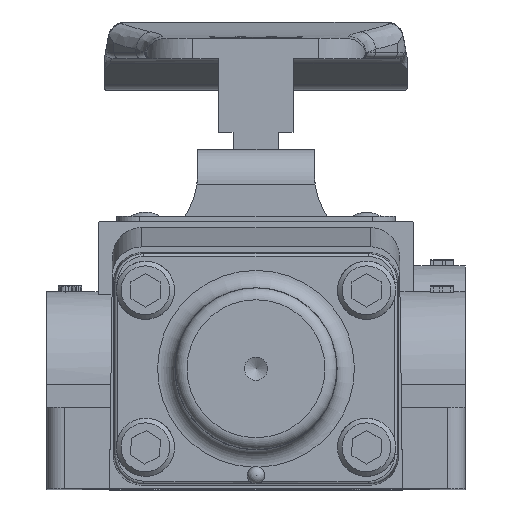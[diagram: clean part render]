
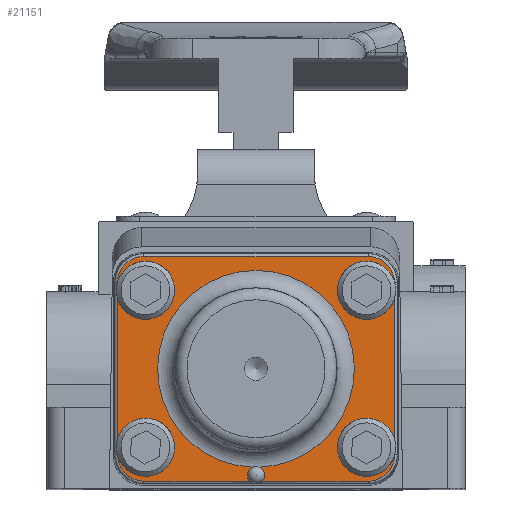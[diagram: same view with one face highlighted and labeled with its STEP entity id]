
A CAD part, top view. The second image highlights one B-rep face of the part: STEP entity #21151.
In plain terms, the highlighted planar face has unit normal (0, 0, 1).
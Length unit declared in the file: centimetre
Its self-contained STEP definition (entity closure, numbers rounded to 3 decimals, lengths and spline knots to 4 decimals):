
#40=ELLIPSE('',#22583,0.3582,0.3581);
#41=ELLIPSE('',#22584,0.3582,0.3581);
#42=ELLIPSE('',#22587,0.3582,0.3581);
#43=ELLIPSE('',#22591,0.3582,0.3581);
#197=LINE('',#31960,#1610);
#198=LINE('',#31966,#1611);
#199=LINE('',#31972,#1612);
#200=LINE('',#31978,#1613);
#201=LINE('',#31986,#1614);
#1610=VECTOR('',#25130,1.9253);
#1611=VECTOR('',#25135,3.0644);
#1612=VECTOR('',#25140,1.9253);
#1613=VECTOR('',#25145,1.4449);
#1614=VECTOR('',#25152,1.4449);
#3786=PLANE('',#22580);
#5805=FACE_OUTER_BOUND('',#7197,.T.);
#7197=EDGE_LOOP('',(#15088,#15089,#15090,#15091,#15092,#15093,#15094,#15095,
#15096,#15097,#15098,#15099,#15100,#15101,#15102,#15103));
#8751=CIRCLE('',#22581,0.3969);
#8752=CIRCLE('',#22582,0.3969);
#8753=CIRCLE('',#22585,0.3969);
#8754=CIRCLE('',#22586,0.3969);
#8755=CIRCLE('',#22588,0.1191);
#8756=CIRCLE('',#22589,1.3434);
#8757=CIRCLE('',#22590,0.1191);
#9737=VERTEX_POINT('',#31956);
#9738=VERTEX_POINT('',#31957);
#9739=VERTEX_POINT('',#31959);
#9740=VERTEX_POINT('',#31961);
#9741=VERTEX_POINT('',#31963);
#9742=VERTEX_POINT('',#31965);
#9743=VERTEX_POINT('',#31967);
#9744=VERTEX_POINT('',#31969);
#9745=VERTEX_POINT('',#31971);
#9746=VERTEX_POINT('',#31973);
#9747=VERTEX_POINT('',#31975);
#9748=VERTEX_POINT('',#31977);
#9749=VERTEX_POINT('',#31979);
#9750=VERTEX_POINT('',#31981);
#9751=VERTEX_POINT('',#31983);
#9752=VERTEX_POINT('',#31985);
#11824=EDGE_CURVE('',#9737,#9738,#8751,.T.);
#11825=EDGE_CURVE('',#9739,#9738,#197,.T.);
#11826=EDGE_CURVE('',#9739,#9740,#8752,.T.);
#11827=EDGE_CURVE('',#9741,#9740,#40,.T.);
#11828=EDGE_CURVE('',#9742,#9741,#198,.T.);
#11829=EDGE_CURVE('',#9743,#9742,#41,.T.);
#11830=EDGE_CURVE('',#9743,#9744,#8753,.T.);
#11831=EDGE_CURVE('',#9745,#9744,#199,.T.);
#11832=EDGE_CURVE('',#9745,#9746,#8754,.T.);
#11833=EDGE_CURVE('',#9747,#9746,#42,.T.);
#11834=EDGE_CURVE('',#9748,#9747,#200,.T.);
#11835=EDGE_CURVE('',#9748,#9749,#8755,.T.);
#11836=EDGE_CURVE('',#9750,#9749,#8756,.T.);
#11837=EDGE_CURVE('',#9750,#9751,#8757,.T.);
#11838=EDGE_CURVE('',#9752,#9751,#201,.T.);
#11839=EDGE_CURVE('',#9737,#9752,#43,.T.);
#15088=ORIENTED_EDGE('',*,*,#11824,.T.);
#15089=ORIENTED_EDGE('',*,*,#11825,.F.);
#15090=ORIENTED_EDGE('',*,*,#11826,.T.);
#15091=ORIENTED_EDGE('',*,*,#11827,.F.);
#15092=ORIENTED_EDGE('',*,*,#11828,.F.);
#15093=ORIENTED_EDGE('',*,*,#11829,.F.);
#15094=ORIENTED_EDGE('',*,*,#11830,.T.);
#15095=ORIENTED_EDGE('',*,*,#11831,.F.);
#15096=ORIENTED_EDGE('',*,*,#11832,.T.);
#15097=ORIENTED_EDGE('',*,*,#11833,.F.);
#15098=ORIENTED_EDGE('',*,*,#11834,.F.);
#15099=ORIENTED_EDGE('',*,*,#11835,.T.);
#15100=ORIENTED_EDGE('',*,*,#11836,.F.);
#15101=ORIENTED_EDGE('',*,*,#11837,.T.);
#15102=ORIENTED_EDGE('',*,*,#11838,.F.);
#15103=ORIENTED_EDGE('',*,*,#11839,.F.);
#21151=ADVANCED_FACE('',(#5805),#3786,.T.);
#22580=AXIS2_PLACEMENT_3D('',#31955,#25126,#25127);
#22581=AXIS2_PLACEMENT_3D('',#31958,#25128,#25129);
#22582=AXIS2_PLACEMENT_3D('',#31962,#25131,#25132);
#22583=AXIS2_PLACEMENT_3D('',#31964,#25133,#25134);
#22584=AXIS2_PLACEMENT_3D('',#31968,#25136,#25137);
#22585=AXIS2_PLACEMENT_3D('',#31970,#25138,#25139);
#22586=AXIS2_PLACEMENT_3D('',#31974,#25141,#25142);
#22587=AXIS2_PLACEMENT_3D('',#31976,#25143,#25144);
#22588=AXIS2_PLACEMENT_3D('',#31980,#25146,#25147);
#22589=AXIS2_PLACEMENT_3D('',#31982,#25148,#25149);
#22590=AXIS2_PLACEMENT_3D('',#31984,#25150,#25151);
#22591=AXIS2_PLACEMENT_3D('',#31987,#25153,#25154);
#25126=DIRECTION('center_axis',(0.,0.,
1.));
#25127=DIRECTION('ref_axis',(1.,0.,0.));
#25128=DIRECTION('center_axis',(0.,0.,
-1.));
#25129=DIRECTION('ref_axis',(-1.,0.01,0.));
#25130=DIRECTION('',(0.,-1.,0.));
#25131=DIRECTION('center_axis',(0.,0.,
-1.));
#25132=DIRECTION('ref_axis',(-1.,0.,0.));
#25133=DIRECTION('center_axis',(0.,0.,
-1.));
#25134=DIRECTION('ref_axis',(0.707,0.707,0.));
#25135=DIRECTION('',(1.,0.,0.));
#25136=DIRECTION('center_axis',(0.,0.,
-1.));
#25137=DIRECTION('ref_axis',(-0.707,0.707,0.));
#25138=DIRECTION('center_axis',(0.,0.,
-1.));
#25139=DIRECTION('ref_axis',(-1.,0.,0.));
#25140=DIRECTION('',(0.,1.,0.));
#25141=DIRECTION('center_axis',(0.,0.,
-1.));
#25142=DIRECTION('ref_axis',(-0.999,0.051,0.));
#25143=DIRECTION('center_axis',(0.,0.,
-1.));
#25144=DIRECTION('ref_axis',(-0.707,-0.707,0.));
#25145=DIRECTION('',(-1.,0.,0.));
#25146=DIRECTION('center_axis',(0.,0.,
-1.));
#25147=DIRECTION('ref_axis',(-1.,0.,0.));
#25148=DIRECTION('center_axis',(0.,0.,
1.));
#25149=DIRECTION('ref_axis',(-1.,0.,0.));
#25150=DIRECTION('center_axis',(0.,0.,
-1.));
#25151=DIRECTION('ref_axis',(-1.,0.,0.));
#25152=DIRECTION('',(-1.,0.,0.));
#25153=DIRECTION('center_axis',(0.,0.,
-1.));
#25154=DIRECTION('ref_axis',(0.707,-0.707,0.));
#31955=CARTESIAN_POINT('Origin',(0.,0.,
5.7353));
#31956=CARTESIAN_POINT('',(1.8903,-1.1813,5.7353));
#31957=CARTESIAN_POINT('',(1.8903,-0.9626,5.7353));
#31958=CARTESIAN_POINT('Origin',(1.5088,-1.0719,5.7353));
#31959=CARTESIAN_POINT('',(1.8903,0.9626,5.7353));
#31960=CARTESIAN_POINT('',(1.8903,0.7938,5.7353));
#31961=CARTESIAN_POINT('',(1.8903,1.1813,5.7353));
#31962=CARTESIAN_POINT('Origin',(1.5088,1.0719,5.7353));
#31963=CARTESIAN_POINT('',(1.5322,1.5334,5.7353));
#31964=CARTESIAN_POINT('Origin',(1.5321,1.1752,5.7353));
#31965=CARTESIAN_POINT('',(-1.5322,1.5334,5.7353));
#31966=CARTESIAN_POINT('',(-0.9722,1.5334,5.7353));
#31967=CARTESIAN_POINT('',(-1.8903,1.1813,5.7353));
#31968=CARTESIAN_POINT('Origin',(-1.5321,1.1752,5.7353));
#31969=CARTESIAN_POINT('',(-1.8903,0.9626,5.7353));
#31970=CARTESIAN_POINT('Origin',(-1.5088,1.0719,5.7353));
#31971=CARTESIAN_POINT('',(-1.8903,-0.9626,5.7353));
#31972=CARTESIAN_POINT('',(-1.8903,-0.7938,5.7353));
#31973=CARTESIAN_POINT('',(-1.8903,-1.1813,5.7353));
#31974=CARTESIAN_POINT('Origin',(-1.5088,-1.0719,5.7353));
#31975=CARTESIAN_POINT('',(-1.5322,-1.5334,5.7353));
#31976=CARTESIAN_POINT('Origin',(-1.5321,-1.1752,5.7353));
#31977=CARTESIAN_POINT('',(-0.0873,-1.5334,5.7353));
#31978=CARTESIAN_POINT('',(0.9722,-1.5334,5.7353));
#31979=CARTESIAN_POINT('',(-0.0459,-1.3426,5.7353));
#31980=CARTESIAN_POINT('Origin',(0.,-1.4525,
5.7353));
#31981=CARTESIAN_POINT('',(0.0459,-1.3426,5.7353));
#31982=CARTESIAN_POINT('Origin',(0.,0.,
5.7353));
#31983=CARTESIAN_POINT('',(0.0873,-1.5334,5.7353));
#31984=CARTESIAN_POINT('Origin',(0.,-1.4525,
5.7353));
#31985=CARTESIAN_POINT('',(1.5322,-1.5334,5.7353));
#31986=CARTESIAN_POINT('',(0.9722,-1.5334,5.7353));
#31987=CARTESIAN_POINT('Origin',(1.5321,-1.1752,5.7353));
